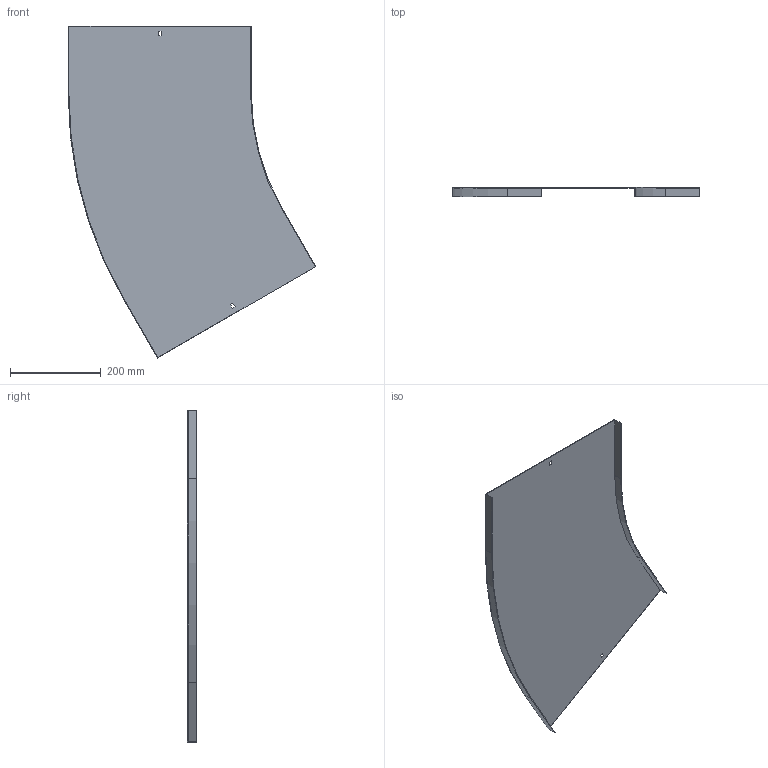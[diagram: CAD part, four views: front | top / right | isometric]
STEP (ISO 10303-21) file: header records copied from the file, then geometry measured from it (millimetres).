
FILE_DESCRIPTION (( 'STEP AP214' ), '1' );
FILE_NAME ('12N5R400.step', '2025-02-21T14:26:12', ( '' ), ( '' ), 'SwSTEP 2.0', 'SolidWorks 2023', '' );
FILE_SCHEMA (( 'AUTOMOTIVE_DESIGN' ));
Length unit declared in the file: millimetre
Products named in the file (1): 12N5R400
Bounding box: 544.79 x 20 x 730.65 mm (x, y, z)
Volume: 439727.1 mm3; surface area: 589715.4 mm2
Topology: 1 solids, 1 shells, 26 faces, 72 edges, 48 vertices
Faces by surface type: plane 22, cylinder 4
Entity records: 855 total; most frequent: CARTESIAN_POINT 147, ORIENTED_EDGE 144, DIRECTION 134, EDGE_CURVE 72, LINE 64, VECTOR 64, VERTEX_POINT 48, AXIS2_PLACEMENT_3D 35
